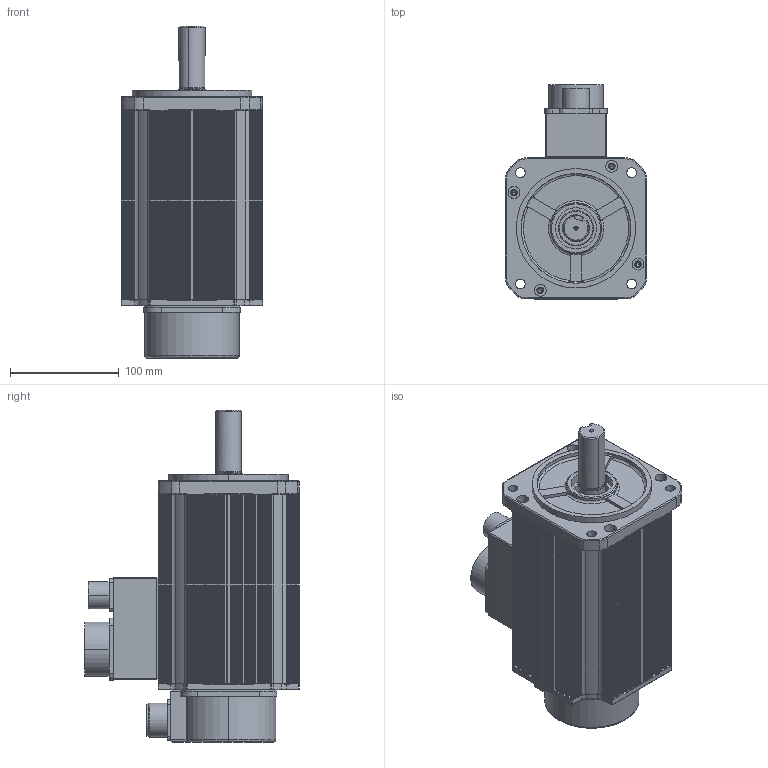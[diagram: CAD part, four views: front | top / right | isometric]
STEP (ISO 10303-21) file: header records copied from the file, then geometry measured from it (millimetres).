
FILE_DESCRIPTION (( 'STEP AP203' ), '1' );
FILE_NAME ('KANS-30D¡à2B2.STEP', '2025-07-11T07:36:08', ( '' ), ( '' ), 'SwSTEP 2.0', 'SolidWorks 2023', '' );
FILE_SCHEMA (( 'CONFIG_CONTROL_DESIGN' ));
Length unit declared in the file: millimetre
Products named in the file (12): 10050532 GASKET_미돌출형; MS3102A 20-29P; MS3102A 32-17P; 1005053102 ENCODER COVER; 10054024 CONNECTOR BOX_MS32, MS14; □130 FLANGE; □130-174mm; MS3102A 14-2P; KANS-30D□2B2; □130 BRACKET_BR; 10054025 RUBBER SEAL_MS32, MS14; Ø24-KEY8X41
Assembly tree (11 placements, depth 2):
  KANS-30D□2B2
    □130-174mm
    □130 FLANGE
    □130 BRACKET_BR
    Ø24-KEY8X41
    10050532 GASKET_미돌출형
    1005053102 ENCODER COVER
    10054025 RUBBER SEAL_MS32, MS14
    10054024 CONNECTOR BOX_MS32, MS14
    MS3102A 32-17P
    MS3102A 14-2P
    MS3102A 20-29P
Bounding box: 130 x 198 x 306 mm (x, y, z)
Volume: 858582.4 mm3; surface area: 435860.8 mm2
Topology: 11 solids, 11 shells, 2211 faces, 6138 edges, 3957 vertices
Faces by surface type: plane 1013, cylinder 880, torus 175, bspline 83, cone 52, sphere 8
Entity records: 75479 total; most frequent: CARTESIAN_POINT 16730, DIRECTION 12211, ORIENTED_EDGE 12144, EDGE_CURVE 6072, AXIS2_PLACEMENT_3D 4317, VERTEX_POINT 3957, LINE 3577, VECTOR 3577
